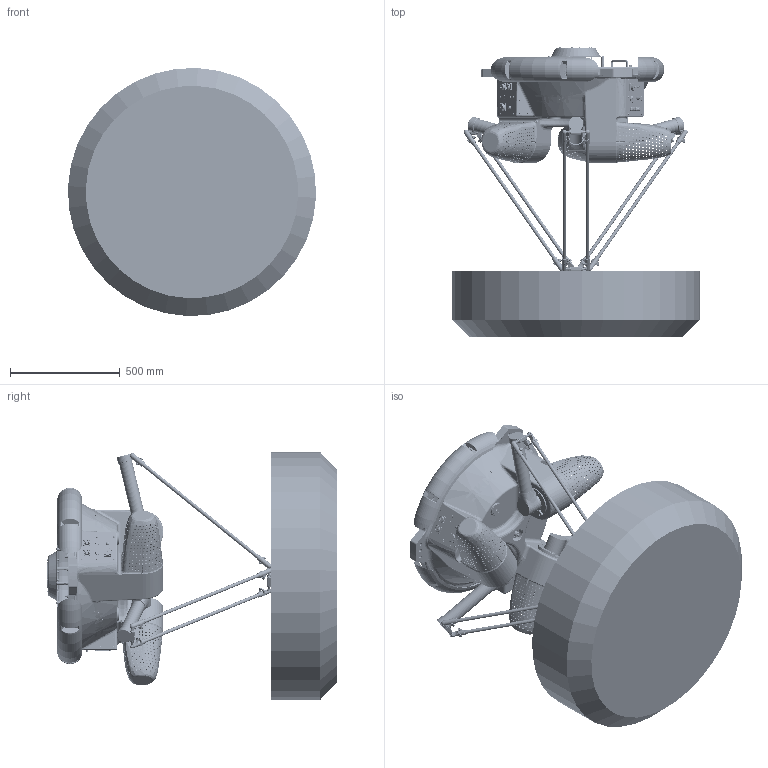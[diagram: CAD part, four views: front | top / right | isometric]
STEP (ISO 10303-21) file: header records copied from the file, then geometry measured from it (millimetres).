
FILE_DESCRIPTION (( 'STEP AP214' ), '1' );
FILE_NAME ('AP3X-1130-1543-T0-V2.0.0.STEP', '2024-10-17T01:28:31', ( '' ), ( '' ), 'SwSTEP 2.0', 'SolidWorks 2017', '' );
FILE_SCHEMA (( 'AUTOMOTIVE_DESIGN' ));
Length unit declared in the file: millimetre
Products named in the file (6): AP3X-1130-1543-T5-V2.0.0; AP3X-1130-1543-T1-V2.0.0; AP3X-1130-1543-T3-V2.0.0; AP3X-1130-1543-T4-V2.0.0; AP3X-1130-1543-T2-V2.0.0; AP3X-1130-1543-T0-V2.0.0
Assembly tree (12 placements, depth 2):
  AP3X-1130-1543-T0-V2.0.0
    AP3X-1130-1543-T1-V2.0.0
    AP3X-1130-1543-T3-V2.0.0  x3
    AP3X-1130-1543-T4-V2.0.0  x6
    AP3X-1130-1543-T5-V2.0.0
    AP3X-1130-1543-T2-V2.0.0
Bounding box: 1128.77 x 1321.8 x 1128.77 mm (x, y, z)
Volume: 292614794.3 mm3; surface area: 9789981.4 mm2
Topology: 133 solids, 816 shells, 26220 faces, 69342 edges, 44018 vertices
Faces by surface type: cylinder 9430, plane 9326, cone 2958, bspline 2610, torus 1543, sphere 353
Entity records: 1290173 total; most frequent: CARTESIAN_POINT 500214, ORIENTED_EDGE 114177, DIRECTION 100200, EDGE_CURVE 59894, VERTEX_POINT 39010, AXIS2_PLACEMENT_3D 35168, LINE 29864, VECTOR 29864
